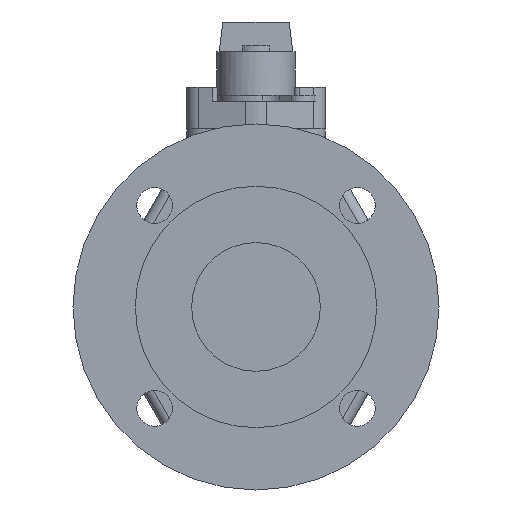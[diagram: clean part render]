
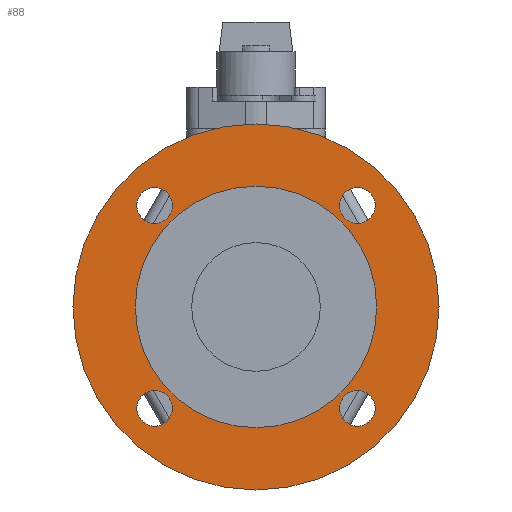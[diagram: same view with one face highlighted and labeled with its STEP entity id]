
A CAD part, left-side view. The second image highlights one B-rep face of the part: STEP entity #88.
In plain terms, the highlighted planar face has unit normal (-1, 0, 0).
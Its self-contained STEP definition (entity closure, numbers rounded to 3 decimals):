
#88=ADVANCED_FACE('',(#463,#464,#465,#466,#467,#468),#462,.T.);
#462=PLANE('',#2888);
#463=FACE_OUTER_BOUND('',#2889,.T.);
#464=FACE_BOUND('',#2890,.T.);
#465=FACE_BOUND('',#2891,.T.);
#466=FACE_BOUND('',#2892,.T.);
#467=FACE_BOUND('',#2893,.T.);
#468=FACE_BOUND('',#2894,.T.);
#2885=CARTESIAN_POINT('',(-142.2,-170.215,-195.));
#2886=DIRECTION('',(-1.,0.,0.));
#2887=DIRECTION('',(0.,0.,1.));
#2888=AXIS2_PLACEMENT_3D('',#2885,#2886,#2887);
#2889=EDGE_LOOP('',(#4350,#4351));
#2890=EDGE_LOOP('',(#4352,#4353));
#2891=EDGE_LOOP('',(#4354,#4355));
#2892=EDGE_LOOP('',(#4356,#4357));
#2893=EDGE_LOOP('',(#4358,#4359));
#2894=EDGE_LOOP('',(#4360,#4361));
#4350=ORIENTED_EDGE('',*,*,#5582,.T.);
#4351=ORIENTED_EDGE('',*,*,#5583,.T.);
#4352=ORIENTED_EDGE('',*,*,#5584,.F.);
#4353=ORIENTED_EDGE('',*,*,#5585,.F.);
#4354=ORIENTED_EDGE('',*,*,#5586,.F.);
#4355=ORIENTED_EDGE('',*,*,#5587,.F.);
#4356=ORIENTED_EDGE('',*,*,#5588,.F.);
#4357=ORIENTED_EDGE('',*,*,#5589,.F.);
#4358=ORIENTED_EDGE('',*,*,#5590,.F.);
#4359=ORIENTED_EDGE('',*,*,#5591,.F.);
#4360=ORIENTED_EDGE('',*,*,#5592,.F.);
#4361=ORIENTED_EDGE('',*,*,#5593,.F.);
#5582=EDGE_CURVE('',#6911,#6912,#6913,.T.);
#5583=EDGE_CURVE('',#6912,#6911,#6919,.T.);
#5584=EDGE_CURVE('',#6925,#6926,#6927,.T.);
#5585=EDGE_CURVE('',#6926,#6925,#6933,.T.);
#5586=EDGE_CURVE('',#6939,#6940,#6941,.T.);
#5587=EDGE_CURVE('',#6940,#6939,#6947,.T.);
#5588=EDGE_CURVE('',#6953,#6954,#6955,.T.);
#5589=EDGE_CURVE('',#6954,#6953,#6961,.T.);
#5590=EDGE_CURVE('',#6967,#6968,#6969,.T.);
#5591=EDGE_CURVE('',#6968,#6967,#6975,.T.);
#5592=EDGE_CURVE('',#6981,#6982,#6983,.T.);
#5593=EDGE_CURVE('',#6982,#6981,#6989,.T.);
#6911=VERTEX_POINT('',#10723);
#6912=VERTEX_POINT('',#10724);
#6913=CIRCLE('',#10728,92.5);
#6919=CIRCLE('',#10732,92.5);
#6925=VERTEX_POINT('',#10733);
#6926=VERTEX_POINT('',#10734);
#6927=CIRCLE('',#10738,9.);
#6933=CIRCLE('',#10742,9.);
#6939=VERTEX_POINT('',#10743);
#6940=VERTEX_POINT('',#10744);
#6941=CIRCLE('',#10748,9.);
#6947=CIRCLE('',#10752,9.);
#6953=VERTEX_POINT('',#10753);
#6954=VERTEX_POINT('',#10754);
#6955=CIRCLE('',#10758,9.);
#6961=CIRCLE('',#10762,9.);
#6967=VERTEX_POINT('',#10763);
#6968=VERTEX_POINT('',#10764);
#6969=CIRCLE('',#10768,9.);
#6975=CIRCLE('',#10772,9.);
#6981=VERTEX_POINT('',#10773);
#6982=VERTEX_POINT('',#10774);
#6983=CIRCLE('',#10778,61.);
#6989=CIRCLE('',#10782,61.);
#10723=CARTESIAN_POINT('',(-142.2,0.,92.5));
#10724=CARTESIAN_POINT('',(-142.2,0.,-92.5));
#10725=CARTESIAN_POINT('',(-142.2,0.,0.));
#10726=DIRECTION('',(-1.,0.,0.));
#10727=DIRECTION('',(0.,0.,1.));
#10728=AXIS2_PLACEMENT_3D('',#10725,#10726,#10727);
#10729=CARTESIAN_POINT('',(-142.2,0.,0.));
#10730=DIRECTION('',(-1.,0.,0.));
#10731=DIRECTION('',(0.,0.,1.));
#10732=AXIS2_PLACEMENT_3D('',#10729,#10730,#10731);
#10733=CARTESIAN_POINT('',(-142.2,51.265,-42.265));
#10734=CARTESIAN_POINT('',(-142.2,51.265,-60.265));
#10735=CARTESIAN_POINT('',(-142.2,51.265,-51.265));
#10736=DIRECTION('',(-1.,0.,0.));
#10737=DIRECTION('',(0.,0.,-1.));
#10738=AXIS2_PLACEMENT_3D('',#10735,#10736,#10737);
#10739=CARTESIAN_POINT('',(-142.2,51.265,-51.265));
#10740=DIRECTION('',(-1.,0.,0.));
#10741=DIRECTION('',(0.,0.,-1.));
#10742=AXIS2_PLACEMENT_3D('',#10739,#10740,#10741);
#10743=CARTESIAN_POINT('',(-142.2,-51.265,-60.265));
#10744=CARTESIAN_POINT('',(-142.2,-51.265,-42.265));
#10745=CARTESIAN_POINT('',(-142.2,-51.265,-51.265));
#10746=DIRECTION('',(-1.,0.,0.));
#10747=DIRECTION('',(0.,0.,1.));
#10748=AXIS2_PLACEMENT_3D('',#10745,#10746,#10747);
#10749=CARTESIAN_POINT('',(-142.2,-51.265,-51.265));
#10750=DIRECTION('',(-1.,0.,0.));
#10751=DIRECTION('',(0.,0.,1.));
#10752=AXIS2_PLACEMENT_3D('',#10749,#10750,#10751);
#10753=CARTESIAN_POINT('',(-142.2,-51.265,60.265));
#10754=CARTESIAN_POINT('',(-142.2,-51.265,42.265));
#10755=CARTESIAN_POINT('',(-142.2,-51.265,51.265));
#10756=DIRECTION('',(-1.,0.,0.));
#10757=DIRECTION('',(0.,0.,-1.));
#10758=AXIS2_PLACEMENT_3D('',#10755,#10756,#10757);
#10759=CARTESIAN_POINT('',(-142.2,-51.265,51.265));
#10760=DIRECTION('',(-1.,0.,0.));
#10761=DIRECTION('',(0.,0.,-1.));
#10762=AXIS2_PLACEMENT_3D('',#10759,#10760,#10761);
#10763=CARTESIAN_POINT('',(-142.2,51.265,42.265));
#10764=CARTESIAN_POINT('',(-142.2,51.265,60.265));
#10765=CARTESIAN_POINT('',(-142.2,51.265,51.265));
#10766=DIRECTION('',(-1.,0.,0.));
#10767=DIRECTION('',(0.,0.,1.));
#10768=AXIS2_PLACEMENT_3D('',#10765,#10766,#10767);
#10769=CARTESIAN_POINT('',(-142.2,51.265,51.265));
#10770=DIRECTION('',(-1.,0.,0.));
#10771=DIRECTION('',(0.,0.,1.));
#10772=AXIS2_PLACEMENT_3D('',#10769,#10770,#10771);
#10773=CARTESIAN_POINT('',(-142.2,0.,-61.));
#10774=CARTESIAN_POINT('',(-142.2,0.,61.));
#10775=CARTESIAN_POINT('',(-142.2,0.,0.));
#10776=DIRECTION('',(-1.,0.,0.));
#10777=DIRECTION('',(0.,0.,1.));
#10778=AXIS2_PLACEMENT_3D('',#10775,#10776,#10777);
#10779=CARTESIAN_POINT('',(-142.2,0.,0.));
#10780=DIRECTION('',(-1.,0.,0.));
#10781=DIRECTION('',(0.,0.,1.));
#10782=AXIS2_PLACEMENT_3D('',#10779,#10780,#10781);
